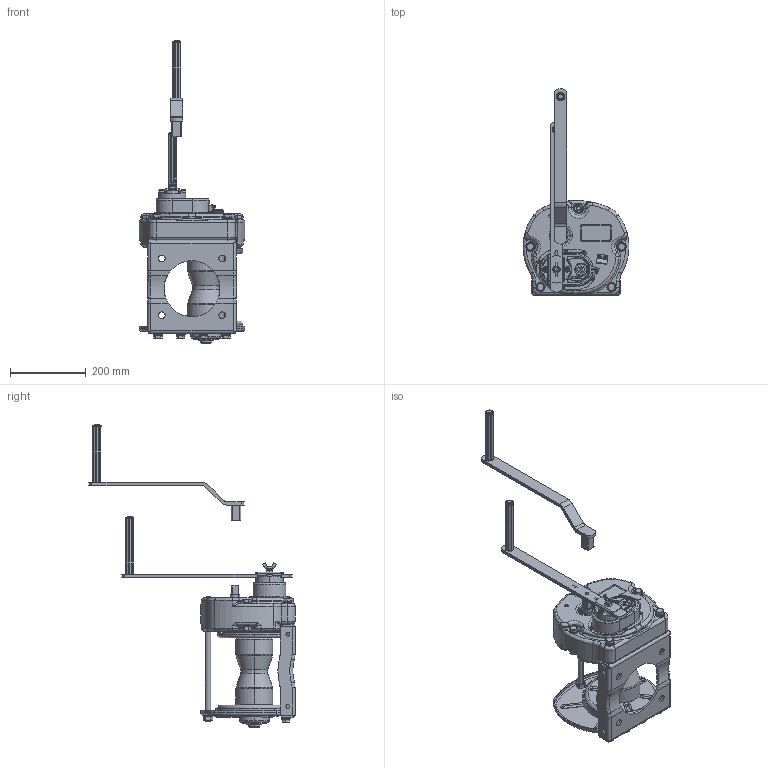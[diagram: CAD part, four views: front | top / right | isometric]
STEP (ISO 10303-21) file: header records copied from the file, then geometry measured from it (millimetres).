
FILE_DESCRIPTION( (''), '2;1');
FILE_NAME ('MC-20.stp','2023-12-25T11:54:59',(''),(''),'spGate 19.8.2 (****-****-****-****)','','');
FILE_SCHEMA (('AUTOMOTIVE_DESIGN'));
Length unit declared in the file: millimetre
Products named in the file (4): Assembly; MC-20-prt0; MC-20-prt1; MC-20-prt2
Assembly tree (3 placements, depth 2):
  Assembly
    MC-20-prt0
    MC-20-prt1
    MC-20-prt2
Bounding box: 279.93 x 545.43 x 801.4 mm (x, y, z)
Volume: 7759718.9 mm3; surface area: 935077 mm2
Topology: 3 solids, 3 shells, 2726 faces, 7118 edges, 4470 vertices
Faces by surface type: plane 1278, cylinder 901, bspline 455, sphere 92
Entity records: 149860 total; most frequent: CARTESIAN_POINT 28541, ORIENTED_EDGE 14056, DIRECTION 13493, COLOUR_RGB 9757, PRESENTATION_STYLE_ASSIGNMENT 9757, STYLED_ITEM 9757, EDGE_CURVE 7028, DRAUGHTING_PRE_DEFINED_CURVE_FONT 7028
